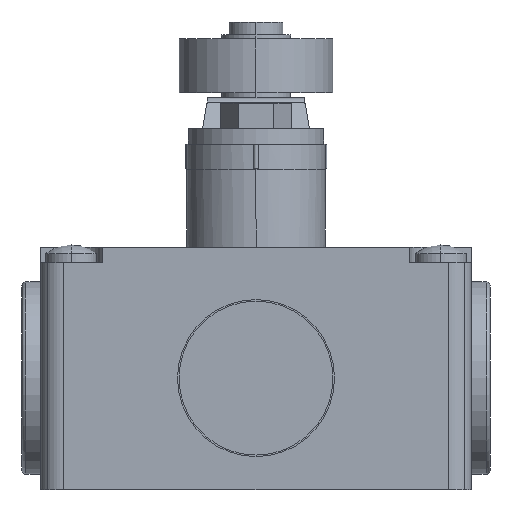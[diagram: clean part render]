
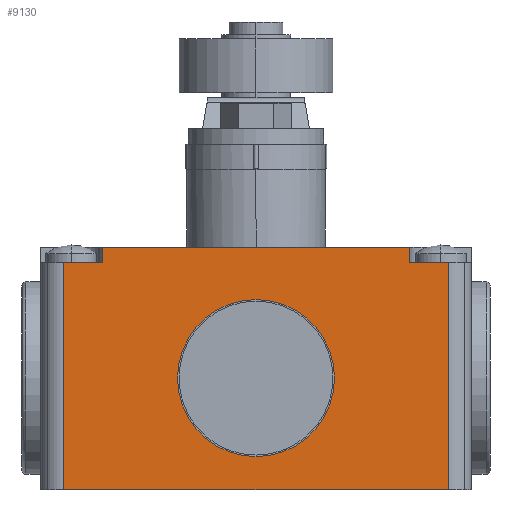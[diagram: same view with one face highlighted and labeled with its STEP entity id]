
A CAD part, front view. The second image highlights one B-rep face of the part: STEP entity #9130.
In plain terms, the highlighted planar face has unit normal (0, -1, 0).
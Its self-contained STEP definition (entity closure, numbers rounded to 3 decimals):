
#174 = EDGE_CURVE ( 'NONE', #10224, #8813, #11555, .T. ) ;
#467 = ORIENTED_EDGE ( 'NONE', *, *, #18586, .T. ) ;
#1061 = FACE_BOUND ( 'NONE', #24481, .T. ) ;
#1209 = DIRECTION ( 'NONE',  ( 0., 0., -1. ) ) ;
#1243 = DIRECTION ( 'NONE',  ( 0., 0., 1. ) ) ;
#1253 = LINE ( 'NONE', #9488, #5323 ) ;
#2421 = ORIENTED_EDGE ( 'NONE', *, *, #20253, .T. ) ;
#2722 = AXIS2_PLACEMENT_3D ( 'NONE', #29636, #15452, #1209 ) ;
#2877 = CIRCLE ( 'NONE', #13134, 10.2 ) ;
#2916 = CARTESIAN_POINT ( 'NONE',  ( -25., -56.8, -14.5 ) ) ;
#2984 = VERTEX_POINT ( 'NONE', #21850 ) ;
#3555 = CARTESIAN_POINT ( 'NONE',  ( 0., -56.8, 0. ) ) ;
#3858 = VECTOR ( 'NONE', #23974, 1000. ) ;
#5014 = CARTESIAN_POINT ( 'NONE',  ( -25., -56.8, -14.5 ) ) ;
#5323 = VECTOR ( 'NONE', #28519, 1000. ) ;
#5389 = ORIENTED_EDGE ( 'NONE', *, *, #8662, .F. ) ;
#5592 = EDGE_CURVE ( 'NONE', #23846, #8314, #7925, .T. ) ;
#5930 = DIRECTION ( 'NONE',  ( 0., 0., -1. ) ) ;
#6155 = PLANE ( 'NONE',  #22840 ) ;
#6605 = ORIENTED_EDGE ( 'NONE', *, *, #10954, .F. ) ;
#7025 = VERTEX_POINT ( 'NONE', #11947 ) ;
#7083 = VERTEX_POINT ( 'NONE', #26470 ) ;
#7394 = DIRECTION ( 'NONE',  ( 1., 0., 0. ) ) ;
#7795 = CARTESIAN_POINT ( 'NONE',  ( -20., -56.8, 17. ) ) ;
#7925 = LINE ( 'NONE', #5014, #13549 ) ;
#8131 = LINE ( 'NONE', #29666, #20047 ) ;
#8314 = VERTEX_POINT ( 'NONE', #13071 ) ;
#8662 = EDGE_CURVE ( 'NONE', #25943, #7083, #25643, .T. ) ;
#8760 = EDGE_LOOP ( 'NONE', ( #18878, #467, #24351, #2421, #16495, #6605, #22736, #22636 ) ) ;
#8813 = VERTEX_POINT ( 'NONE', #13791 ) ;
#9130 = ADVANCED_FACE ( 'NONE', ( #1061, #13717 ), #6155, .T. ) ;
#9488 = CARTESIAN_POINT ( 'NONE',  ( 28., -56.8, 15. ) ) ;
#10173 = LINE ( 'NONE', #14410, #3858 ) ;
#10224 = VERTEX_POINT ( 'NONE', #7795 ) ;
#10474 = CARTESIAN_POINT ( 'NONE',  ( 20., -56.8, 15. ) ) ;
#10948 = CARTESIAN_POINT ( 'NONE',  ( -25., -56.8, -14.5 ) ) ;
#10954 = EDGE_CURVE ( 'NONE', #18948, #10224, #26210, .T. ) ;
#11555 = LINE ( 'NONE', #15907, #23455 ) ;
#11947 = CARTESIAN_POINT ( 'NONE',  ( 25., -56.8, 15. ) ) ;
#13071 = CARTESIAN_POINT ( 'NONE',  ( 25., -56.8, -14.5 ) ) ;
#13134 = AXIS2_PLACEMENT_3D ( 'NONE', #3555, #20188, #5930 ) ;
#13362 = DIRECTION ( 'NONE',  ( 0., 0., -1. ) ) ;
#13549 = VECTOR ( 'NONE', #7394, 1000. ) ;
#13609 = VECTOR ( 'NONE', #17529, 1000. ) ;
#13629 = VECTOR ( 'NONE', #29451, 1000. ) ;
#13717 = FACE_OUTER_BOUND ( 'NONE', #8760, .T. ) ;
#13791 = CARTESIAN_POINT ( 'NONE',  ( 20., -56.8, 17. ) ) ;
#14410 = CARTESIAN_POINT ( 'NONE',  ( -28., -56.8, 15. ) ) ;
#14702 = EDGE_CURVE ( 'NONE', #7025, #28823, #1253, .T. ) ;
#15102 = LINE ( 'NONE', #10474, #13629 ) ;
#15452 = DIRECTION ( 'NONE',  ( 0., -1., 0. ) ) ;
#15907 = CARTESIAN_POINT ( 'NONE',  ( -25., -56.8, 17. ) ) ;
#15924 = CARTESIAN_POINT ( 'NONE',  ( 20., -56.8, 15. ) ) ;
#16495 = ORIENTED_EDGE ( 'NONE', *, *, #174, .F. ) ;
#17529 = DIRECTION ( 'NONE',  ( 0., 0., 1. ) ) ;
#18586 = EDGE_CURVE ( 'NONE', #8314, #7025, #8131, .T. ) ;
#18829 = LINE ( 'NONE', #2916, #24417 ) ;
#18878 = ORIENTED_EDGE ( 'NONE', *, *, #5592, .T. ) ;
#18948 = VERTEX_POINT ( 'NONE', #19207 ) ;
#19207 = CARTESIAN_POINT ( 'NONE',  ( -20., -56.8, 15. ) ) ;
#19688 = EDGE_CURVE ( 'NONE', #7083, #25943, #2877, .T. ) ;
#20047 = VECTOR ( 'NONE', #1243, 1000. ) ;
#20153 = EDGE_CURVE ( 'NONE', #23846, #2984, #18829, .T. ) ;
#20188 = DIRECTION ( 'NONE',  ( 0., -1., 0. ) ) ;
#20253 = EDGE_CURVE ( 'NONE', #28823, #8813, #15102, .T. ) ;
#21850 = CARTESIAN_POINT ( 'NONE',  ( -25., -56.8, 15. ) ) ;
#22082 = CARTESIAN_POINT ( 'NONE',  ( 0., -56.8, -10.2 ) ) ;
#22286 = EDGE_CURVE ( 'NONE', #2984, #18948, #10173, .T. ) ;
#22636 = ORIENTED_EDGE ( 'NONE', *, *, #20153, .F. ) ;
#22736 = ORIENTED_EDGE ( 'NONE', *, *, #22286, .F. ) ;
#22840 = AXIS2_PLACEMENT_3D ( 'NONE', #10948, #27553, #13362 ) ;
#23455 = VECTOR ( 'NONE', #30099, 1000. ) ;
#23846 = VERTEX_POINT ( 'NONE', #29021 ) ;
#23974 = DIRECTION ( 'NONE',  ( 1., 0., 0. ) ) ;
#24351 = ORIENTED_EDGE ( 'NONE', *, *, #14702, .T. ) ;
#24417 = VECTOR ( 'NONE', #29072, 1000. ) ;
#24481 = EDGE_LOOP ( 'NONE', ( #5389, #27156 ) ) ;
#25643 = CIRCLE ( 'NONE', #2722, 10.2 ) ;
#25943 = VERTEX_POINT ( 'NONE', #22082 ) ;
#26210 = LINE ( 'NONE', #26978, #13609 ) ;
#26470 = CARTESIAN_POINT ( 'NONE',  ( 0., -56.8, 10.2 ) ) ;
#26978 = CARTESIAN_POINT ( 'NONE',  ( -20., -56.8, 15. ) ) ;
#27156 = ORIENTED_EDGE ( 'NONE', *, *, #19688, .F. ) ;
#27553 = DIRECTION ( 'NONE',  ( 0., -1., 0. ) ) ;
#28519 = DIRECTION ( 'NONE',  ( -1., 0., 0. ) ) ;
#28823 = VERTEX_POINT ( 'NONE', #15924 ) ;
#29021 = CARTESIAN_POINT ( 'NONE',  ( -25., -56.8, -14.5 ) ) ;
#29072 = DIRECTION ( 'NONE',  ( 0., 0., 1. ) ) ;
#29451 = DIRECTION ( 'NONE',  ( 0., 0., 1. ) ) ;
#29636 = CARTESIAN_POINT ( 'NONE',  ( 0., -56.8, 0. ) ) ;
#29666 = CARTESIAN_POINT ( 'NONE',  ( 25., -56.8, -14.5 ) ) ;
#30099 = DIRECTION ( 'NONE',  ( 1., 0., 0. ) ) ;
